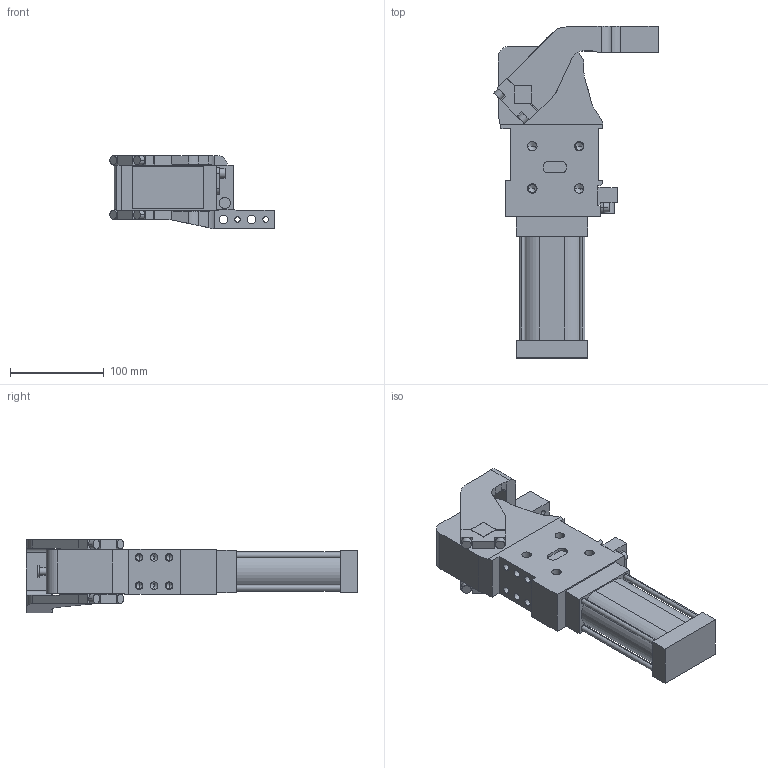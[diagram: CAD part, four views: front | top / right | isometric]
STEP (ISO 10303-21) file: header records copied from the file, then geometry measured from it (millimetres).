
FILE_DESCRIPTION (( 'STEP AP214' ), '1' );
FILE_NAME ('cpl50v3dsi1g_26.STEP', '2023-01-26T09:52:23', ( '' ), ( '' ), 'SwSTEP 2.0', 'SolidWorks 2022', '' );
FILE_SCHEMA (( 'AUTOMOTIVE_DESIGN' ));
Length unit declared in the file: millimetre
Products named in the file (4): leva_sx_offset_45_cpl50; cpl50v3dsi1g_26; blocchetto_VEP_0; meccanica_cpl_50
Assembly tree (3 placements, depth 2):
  cpl50v3dsi1g_26
    meccanica_cpl_50
    blocchetto_VEP_0
    leva_sx_offset_45_cpl50
Bounding box: 174.97 x 353.5 x 78.5 mm (x, y, z)
Volume: 1401486.7 mm3; surface area: 167143.1 mm2
Topology: 3 solids, 3 shells, 401 faces, 1035 edges, 643 vertices
Faces by surface type: plane 195, cylinder 156, cone 50
Entity records: 13476 total; most frequent: CARTESIAN_POINT 2142, DIRECTION 2110, ORIENTED_EDGE 1978, EDGE_CURVE 989, AXIS2_PLACEMENT_3D 729, LINE 652, VECTOR 652, VERTEX_POINT 643
